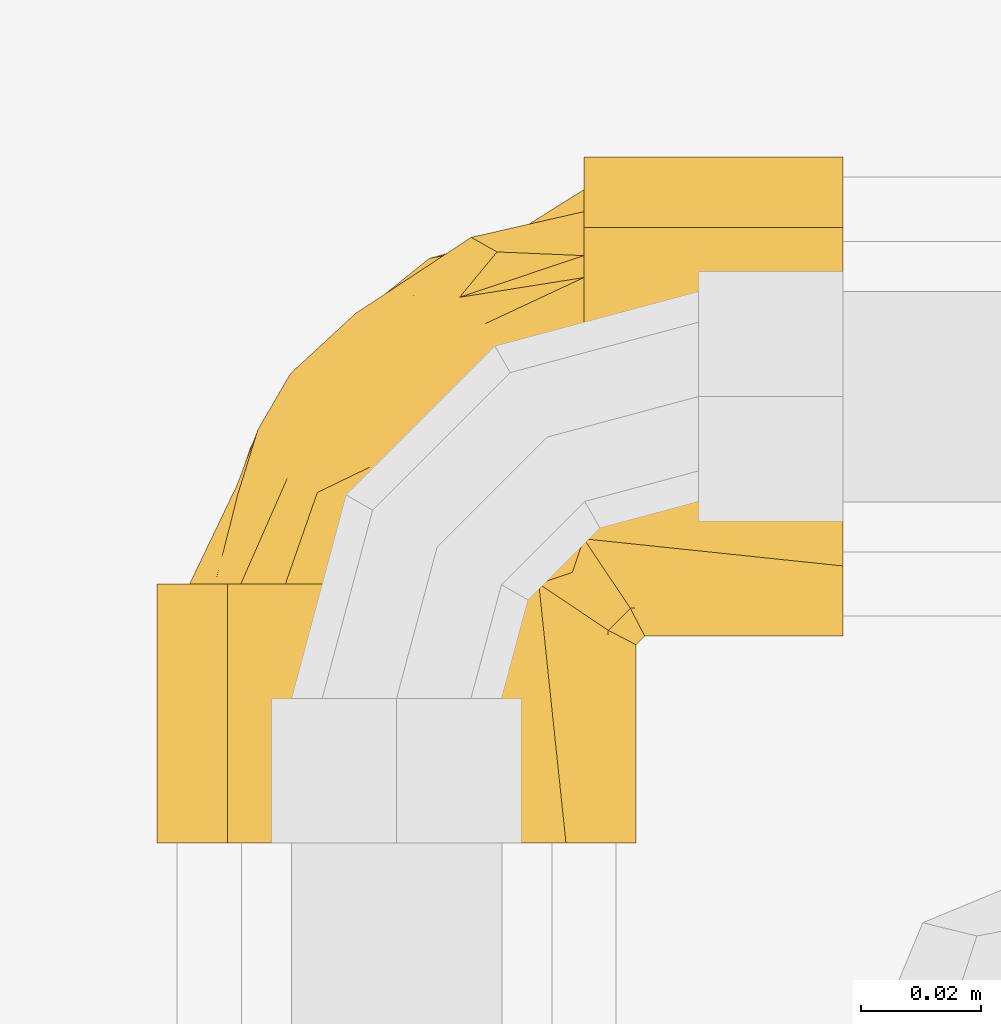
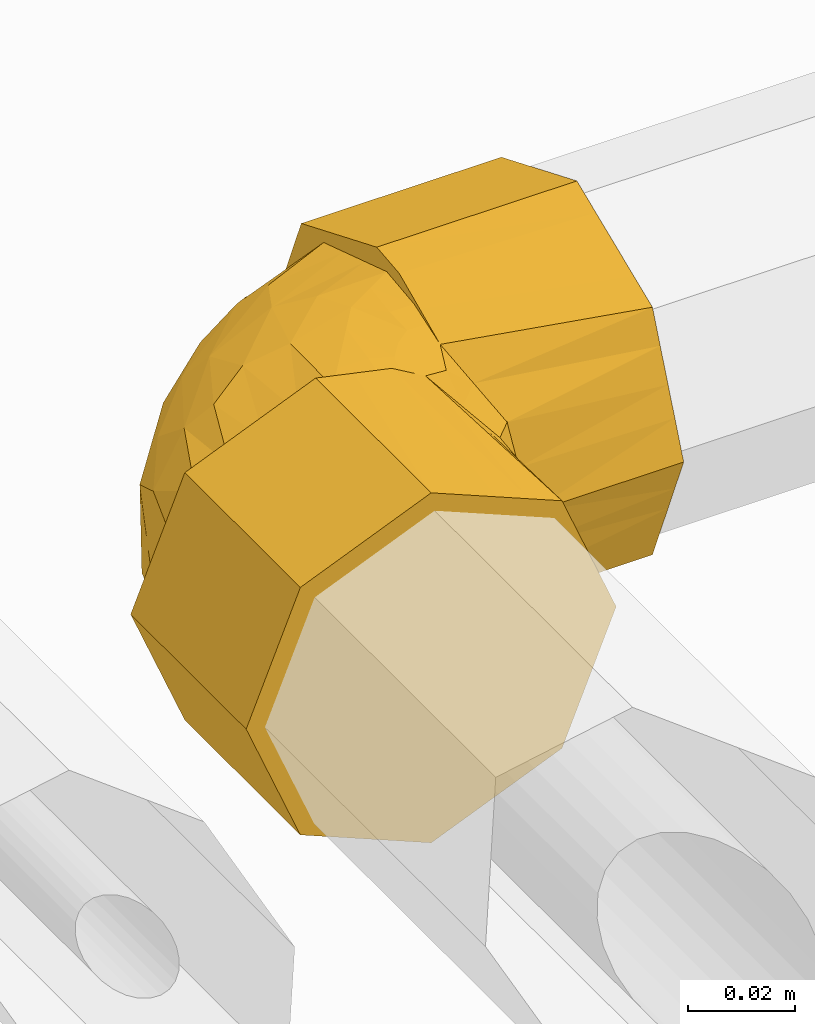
# One storey, part 149 of 652: 1 covering.
"""IFC2X3 building model written with IfcOpenShell, lengths in millimetres."""

from ifc_helpers import new_model, entity, si_unit, converted_unit, direction, frame, origin, place, context, subcontext, project, spatial, faceted_brep, material, type_object, element, save


model = new_model("IFC2X3")

# Units and contexts
model_context = context("Model", 3, precision=0.01, world=frame((0.0, 0.0, 308426.39999999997)), true_north=direction((6.123233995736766e-17, 1.0)))
plan_context = context("Plan", 3, precision=0.01, world=frame((0.0, 0.0, 308426.39999999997)), true_north=direction((6.123233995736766e-17, 1.0)))
body_context = subcontext(model_context, "Body", "Model", "MODEL_VIEW")
ifc_project = project(units=[si_unit("LENGTHUNIT", "METRE", prefix="MILLI"), si_unit("AREAUNIT", "SQUARE_METRE"), si_unit("VOLUMEUNIT", "CUBIC_METRE"), converted_unit("PLANEANGLEUNIT", "DEGREE", entity("IfcPlaneAngleMeasure", 0.017453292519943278), si_unit("PLANEANGLEUNIT", "RADIAN"), dimensions=[0, 0, 0, 0, 0, 0, 0])], contexts=[model_context, plan_context])

# Site, building, storey
site_placement = place(None, origin())
site = spatial("IfcSite", under=ifc_project, at=site_placement, Name="Default", CompositionType="ELEMENT")
building_placement = place(site_placement, origin())
building = spatial("IfcBuilding", under=site, at=building_placement, CompositionType="ELEMENT")
storey_placement = place(building_placement, frame((0.0, 0.0, 1730.6999999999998)))
storey = spatial("IfcBuildingStorey", under=building, at=storey_placement, Name="EG_Produktion_FFB", CompositionType="ELEMENT", Elevation=1730.6999999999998)

# Covering
ifc_material = material(Name="Dämmung - Armaflex-Schlauch")
covering_type = type_object("IfcCoveringType", Name="Rohrdämmung außen:Armaflex-Schlauch", PredefinedType="INSULATION")
covering_placement = place(storey_placement, frame((15142.840430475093, 61025.915749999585, 4241.353272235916)))
element("IfcCovering", 1, at=covering_placement, inside=storey, type_object=covering_type, material=ifc_material, Name="Rohrdämmung außen:Armaflex-Schlauch", ObjectType="Rohrdämmung außen:Armaflex-Schlauch", PredefinedType="INSULATION", context=body_context, shape_type="Brep", body=[
    faceted_brep([(72.43177223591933, 60.144076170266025, -76.62300673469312), (72.43177223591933, 64.13185283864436, -77.08951820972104), (72.43177223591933, 70.33992920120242, -77.81577223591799), (72.43177223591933, 77.97579246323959, -74.37467999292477), (72.43177223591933, 85.61165572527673, -70.93358774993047), (72.43177223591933, 92.77248166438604, -67.7065704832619), (72.43177223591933, 99.933307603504, -64.47955321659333), (72.43177223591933, 104.18429126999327, -52.91641272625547), (72.43177223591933, 108.43527493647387, -41.353272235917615), (72.43177223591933, 104.78880055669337, -34.14184701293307), (72.43177223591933, 101.14232617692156, -26.930421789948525), (72.43177223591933, 97.49585179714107, -19.71899656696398), (72.43177223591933, 93.84937741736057, -12.507571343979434), (72.43177223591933, 86.49570507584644, -10.125063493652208), (72.43177223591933, 78.4178171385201, -7.507917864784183), (72.43177223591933, 70.33992920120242, -4.8907722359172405), (72.4317722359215, 64.13185283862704, -5.617026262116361), (72.43177223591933, 60.144076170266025, -6.083537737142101), (72.4317722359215, 55.31227974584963, -7.721836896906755), (72.43177223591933, 50.48048332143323, -9.360136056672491), (72.43177223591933, 58.097888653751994, -5.923104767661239), (72.43177223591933, 65.71529398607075, -2.4860734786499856), (72.43177223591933, 74.08425000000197, -1.5952722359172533), (72.43177223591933, 82.08002046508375, -4.907228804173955), (72.43177223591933, 88.14082570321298, -7.417696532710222), (72.43177223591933, 95.16911355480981, -10.328908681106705), (72.43177223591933, 102.19740140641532, -13.24012082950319), (72.43177223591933, 105.10861355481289, -20.268408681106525), (72.43177223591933, 108.01982570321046, -27.296696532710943), (72.43177223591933, 110.93103785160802, -34.32498438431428), (72.43177223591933, 113.84224999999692, -41.353272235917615), (72.43177223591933, 110.53029340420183, -49.34904276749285), (72.43177223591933, 108.01982570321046, -55.40984793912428), (72.43177223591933, 105.10861355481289, -62.4381357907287), (72.43177223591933, 102.19740140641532, -69.46642364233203), (72.43177223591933, 95.16911355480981, -72.37763579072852), (72.43177223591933, 88.14082570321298, -75.288847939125), (72.43177223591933, 82.0800191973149, -77.79931619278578), (72.43177223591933, 74.08425000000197, -81.11127223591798), (72.43177223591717, 65.90823846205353, -79.35208118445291), (72.43177223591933, 57.73222692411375, -77.59289013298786), (72.43177223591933, 50.48048332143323, -73.34640841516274), (72.4317722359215, 55.31227974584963, -74.98470757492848), (115.43752223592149, 67.05596214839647, -4.506484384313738), (115.43752223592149, 60.02767429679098, -7.417696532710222), (115.43752223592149, 52.9993864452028, -10.328908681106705), (115.43752223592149, 45.971098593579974, -13.24012082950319), (115.43752223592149, 43.05988644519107, -20.268408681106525), (115.43752223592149, 40.1486742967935, -27.296696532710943), (115.43752223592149, 37.63820666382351, -33.35750154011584), (115.43752223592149, 34.32624999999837, -41.353272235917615), (115.43752223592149, 37.63820598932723, -49.349041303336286), (115.43752223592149, 40.14867429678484, -55.40984793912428), (115.43752223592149, 43.05988644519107, -62.4381357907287), (115.43752223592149, 45.971098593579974, -69.46642364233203), (115.43752223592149, 52.99938644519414, -72.37763579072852), (115.43752223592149, 60.02767429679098, -75.288847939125), (115.43752223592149, 67.05596214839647, -78.20006008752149), (115.43752223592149, 74.08425000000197, -81.11127223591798), (115.43752223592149, 81.11253785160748, -78.20006008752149), (115.43752223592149, 88.14082570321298, -75.288847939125), (115.43752223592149, 95.16911355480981, -72.37763579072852), (115.43752223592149, 102.19740140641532, -69.46642364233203), (115.43752223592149, 105.10861355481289, -62.4381357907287), (115.43752223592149, 108.01982570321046, -55.40984793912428), (115.43752223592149, 110.93103785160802, -48.38156008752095), (115.43752223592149, 113.84224999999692, -41.353272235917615), (115.43752223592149, 110.93103785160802, -34.32498438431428), (115.43752223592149, 108.01982570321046, -27.296696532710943), (115.43752223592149, 105.10861355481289, -20.26840868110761), (115.43752223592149, 102.19740140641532, -13.24012082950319), (115.43752223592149, 90.07579169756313, -8.219185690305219), (115.43752223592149, 82.0800208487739, -4.907228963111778), (115.43752223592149, 74.08425000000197, -1.5952722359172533), (76.29438305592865, 44.71268924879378, -16.057183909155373), (82.55017689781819, 34.32624999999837, -41.353272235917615), (81.35358538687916, 36.63557258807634, -32.05375199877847), (80.15699387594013, 38.94489517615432, -22.754231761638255), (80.75528963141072, 37.79023388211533, -27.403991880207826), (76.29438305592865, 44.71268924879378, -66.64936056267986), (81.35358538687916, 36.63557258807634, -50.65279247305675), (80.15699387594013, 38.94489517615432, -59.95231271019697), (81.99579646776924, 35.39615835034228, -45.66173672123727), (41.353272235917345, 43.00574999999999, -81.11127223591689), (33.35750183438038, 43.00574999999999, -77.79931569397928), (27.296696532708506, 43.00574999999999, -75.28884793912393), (20.26840868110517, 43.00574999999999, -72.37763579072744), (13.240120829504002, 43.00574999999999, -69.46642364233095), (10.328908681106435, 43.00574999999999, -62.43813579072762), (7.417696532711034, 43.00574999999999, -55.40984793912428), (4.907228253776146, 43.00574999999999, -49.34904137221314), (1.5952722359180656, 43.00574999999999, -41.353272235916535), (4.9072286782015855, 43.00574999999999, -33.357502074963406), (7.417696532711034, 43.00574999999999, -27.29669653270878), (10.32890868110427, 43.00574999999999, -20.26840868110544), (13.240120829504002, 43.00574999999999, -13.240120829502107), (20.26840868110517, 43.00574999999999, -10.328908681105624), (27.296696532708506, 43.00574999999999, -7.417696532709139), (34.32498438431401, 43.00574999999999, -4.506484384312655), (41.353272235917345, 43.00574999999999, -1.5952722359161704), (49.52928377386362, 43.00574999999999, -3.3544632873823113), (57.7052953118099, 43.00574999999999, -5.113654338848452), (64.95703891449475, 43.00574999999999, -9.360136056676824), (60.125242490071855, 43.00574999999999, -7.721836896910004), (55.293446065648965, 43.00574999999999, -6.0835377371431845), (51.30567010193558, 43.00574999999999, -5.617026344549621), (48.20163156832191, 43.00574999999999, -5.2538992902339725), (45.09759303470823, 43.00574999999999, -4.8907722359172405), (37.69714258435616, 43.00574999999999, -8.227318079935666), (30.29669213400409, 43.00574999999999, -11.56386392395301), (22.89624168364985, 43.00574999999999, -14.900409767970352), (15.495791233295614, 43.00574999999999, -18.236955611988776), (13.37240524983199, 43.00574999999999, -24.016034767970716), (11.249019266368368, 43.00574999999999, -29.79511392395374), (7.002247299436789, 43.00574999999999, -41.353272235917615), (10.651622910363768, 43.00574999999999, -48.566861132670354), (14.300998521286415, 43.00574999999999, -55.78045002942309), (17.95037413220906, 43.00574999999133, -62.99403892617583), (21.599749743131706, 43.00574999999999, -70.20762782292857), (27.474210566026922, 43.00574999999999, -72.1096639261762), (33.348671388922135, 43.00574999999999, -74.01170002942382), (45.09759303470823, 43.00574999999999, -77.81577223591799), (48.201631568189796, 43.00574999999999, -77.4526451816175), (51.30567010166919, 43.00574999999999, -77.08951812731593), (55.2934460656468, 43.00574999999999, -76.62300673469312), (60.12524249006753, 43.00574999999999, -74.98470757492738), (64.95703891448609, 43.00574999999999, -73.34640841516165), (57.33963358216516, 43.00574999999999, -76.7834397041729), (49.72222824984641, 43.00574999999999, -80.22047099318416), (13.240120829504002, 0.0, -13.240120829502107), (8.21918556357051, 0.0, -25.361730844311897), (4.9072288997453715, 0.0, -33.357501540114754), (1.5952722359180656, 0.0, -41.353272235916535), (4.506484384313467, 0.0, -48.381560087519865), (7.417696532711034, 0.0, -55.40984793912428), (10.32890868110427, 0.0, -62.43813579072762), (13.240120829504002, 0.0, -69.46642364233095), (20.26840868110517, 0.0, -72.37763579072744), (27.296696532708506, 0.0, -75.28884793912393), (34.32498438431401, 0.0, -78.20006008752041), (41.353272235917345, 0.0, -81.11127223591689), (48.381560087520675, 0.0, -78.20006008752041), (55.40984793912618, 0.0, -75.28884793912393), (62.43813579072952, 0.0, -72.37763579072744), (69.46642364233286, 0.0, -69.46642364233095), (72.37763579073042, 0.0, -62.43813579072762), (75.28884793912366, 0.0, -55.40984793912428), (77.79931550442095, 0.0, -49.349043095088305), (81.11127223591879, 0.0, -41.353272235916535), (77.79931623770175, 0.0, -33.35750314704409), (75.28884793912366, 0.0, -27.29669653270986), (72.37763579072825, 0.0, -20.26840868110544), (69.46642364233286, 0.0, -13.240120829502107), (62.43813579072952, 0.0, -10.328908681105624), (55.40984793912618, 0.0, -7.417696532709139), (49.34904308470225, 0.0, -4.907228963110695), (41.353272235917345, 0.0, -1.5952722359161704), (34.32498438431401, 0.0, -4.506484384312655), (27.296696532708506, 0.0, -7.417696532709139), (20.26840868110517, 0.0, -10.328908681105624), (81.11127223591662, 32.88734533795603, -41.353272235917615), (78.80194964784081, 34.08393684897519, -32.05375199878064), (76.492627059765, 35.280528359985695, -22.754231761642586), (78.97145557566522, 33.996106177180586, -32.73634342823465), (70.72483298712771, 39.14313917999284, -16.057183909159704), (70.72483298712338, 39.14313917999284, -66.64936056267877), (78.80194964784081, 34.08393684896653, -50.65279247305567), (76.49262705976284, 35.28052835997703, -59.9523127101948), (78.97145557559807, 33.99610617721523, -49.970201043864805), (80.04136390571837, 33.44172575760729, -45.66173663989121), (28.19110575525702, 58.166290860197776, -12.124299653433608), (56.173355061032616, 86.24367512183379, -11.869467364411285), (50.64377400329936, 75.43570574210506, -8.378555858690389), (60.9929039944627, 63.77170858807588, -4.8907722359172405), (57.90061631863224, 71.00962303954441, -5.704393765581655), (45.89785871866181, 60.33082901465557, -5.817790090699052), (36.82001052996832, 74.69227230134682, -14.285355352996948), (51.80207039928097, 90.57284197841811, -17.286951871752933), (23.738422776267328, 77.92193606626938, -41.353272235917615), (18.343086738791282, 68.6359141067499, -33.28725759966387), (34.51769201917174, 87.88495600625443, -32.933813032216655), (60.25843487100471, 100.80694021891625, -41.353272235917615), (53.73292005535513, 100.52515800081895, -31.928717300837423), (33.524488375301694, 79.21479866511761, -20.52698465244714), (46.92212877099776, 45.389360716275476, -4.8907722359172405), (48.74666450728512, 47.77297143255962, -4.8907722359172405), (52.39573597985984, 52.54019286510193, -4.8907722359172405), (56.69431998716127, 58.15595072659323, -4.8907722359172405), (23.18583399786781, 60.494157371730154, -17.193351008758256), (44.19289890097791, 90.87816522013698, -23.505882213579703), (58.02641308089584, 98.10654117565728, -22.48997159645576), (22.770111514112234, 69.6013927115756, -24.518432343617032), (30.82495311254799, 81.49463540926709, -26.856666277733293), (15.370335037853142, 60.46384303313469, -41.353272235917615), (14.815761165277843, 59.30685202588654, -41.353272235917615), (48.08509750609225, 93.1786055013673, -41.353272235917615), (42.120894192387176, 89.44118018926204, -41.353272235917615), (35.91176014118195, 85.550270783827, -41.353272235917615), (14.93671691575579, 57.68461622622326, -26.962093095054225), (36.83398515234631, 62.34563514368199, -8.9072050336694), (57.276333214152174, 98.93822756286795, -41.353272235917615), (67.17975226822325, 67.32420901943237, -4.8907722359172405), (66.82609985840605, 59.547719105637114, -5.540058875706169), (67.53281751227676, 54.28952280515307, -6.7519160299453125), (81.8038063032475, 33.63371593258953, -41.353272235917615), (63.97836554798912, 51.45915617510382, -6.67082440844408), (70.52863875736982, 44.908883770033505, -11.210836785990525), (61.14799970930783, 47.90470403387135, -6.751916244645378), (55.91882115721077, 48.5166417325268, -5.55502126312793), (66.82609985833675, 59.54771910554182, -77.16648559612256), (67.1797522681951, 67.32420901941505, -77.81577223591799), (70.52863885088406, 44.90888341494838, -71.49570746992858), (63.97836630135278, 51.45915542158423, -76.03571971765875), (67.53281753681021, 54.289522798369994, -75.95462843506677), (56.69431998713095, 58.15595072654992, -77.81577223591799), (61.14799971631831, 47.904704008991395, -75.95462822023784), (55.91882115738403, 48.51664173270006, -77.15152320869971), (48.746664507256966, 47.77297143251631, -77.81577223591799), (60.9929039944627, 63.77170858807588, -77.81577223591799), (46.922128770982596, 45.389360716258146, -77.81577223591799), (52.39573597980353, 52.54019286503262, -77.81577223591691), (55.82565961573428, 77.88884430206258, -74.80598737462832), (57.28959429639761, 85.68390575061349, -71.56225245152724), (39.02450620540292, 57.20212685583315, -75.79919171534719), (32.063467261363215, 85.21783817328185, -50.884712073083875), (35.5666121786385, 76.99963686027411, -65.94296495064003), (40.99370372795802, 68.28685011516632, -73.58946657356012), (28.534989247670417, 64.58632217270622, -68.10768824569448), (49.33889122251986, 64.72447259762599, -76.81449307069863), (59.44894022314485, 73.0393897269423, -76.8198510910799), (47.6272601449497, 85.65544995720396, -67.36791849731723), (28.79126858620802, 75.83338581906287, -60.18508487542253), (17.084732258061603, 65.65295551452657, -51.08904624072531), (18.64017595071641, 60.45142062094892, -60.011099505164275), (32.10245728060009, 57.30670812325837, -73.08709853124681), (50.634728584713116, 95.65270419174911, -58.137926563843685), (40.67615020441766, 86.3305076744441, -61.63866824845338), (59.442278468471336, 94.01862068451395, -65.97235995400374), (46.78958221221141, 97.0320102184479, -49.62375736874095)], [[[0, 1, 2, 3, 4, 5, 6, 7, 8, 9, 10, 11, 12, 13, 14, 15, 16, 17, 18, 19, 20, 21, 22, 23, 24, 25, 26, 27, 28, 29, 30, 31, 32, 33, 34, 35, 36, 37, 38, 39, 40, 41, 42]], [[43, 44, 45, 46, 47, 48, 49, 50, 51, 52, 53, 54, 55, 56, 57, 58, 59, 60, 61, 62, 63, 64, 65, 66, 67, 68, 69, 70, 71, 72, 73]], [[47, 46, 74]], [[75, 50, 49]], [[76, 75, 49]], [[48, 77, 78, 76]], [[47, 74, 77]], [[44, 20, 45]], [[43, 21, 44]], [[46, 19, 74]], [[77, 48, 47]], [[44, 21, 20]], [[43, 22, 21]], [[48, 76, 49]], [[43, 73, 22]], [[45, 20, 19]], [[19, 46, 45]], [[23, 22, 73, 72, 71, 70, 26, 25, 24]], [[26, 70, 69, 68, 67, 66, 30, 29, 28, 27]], [[38, 37, 36, 35, 34, 62, 61, 60, 59, 58]], [[30, 66, 65, 64, 63, 62, 34, 33, 32, 31]], [[56, 40, 39]], [[53, 79, 54]], [[39, 57, 56]], [[41, 55, 54]], [[40, 55, 41]], [[80, 52, 51]], [[52, 80, 81]], [[58, 57, 38]], [[51, 75, 82, 80]], [[38, 57, 39]], [[79, 53, 81]], [[55, 40, 56]], [[51, 50, 75]], [[53, 52, 81]], [[79, 41, 54]], [[83, 84, 85, 86, 87, 88, 89, 90, 91, 92, 93, 94, 95, 96, 97, 98, 99, 100, 101, 102, 103, 104, 105, 106, 107, 108, 109, 110, 111, 112, 113, 114, 115, 116, 117, 118, 119, 120, 121, 122, 123, 124, 125, 126, 127, 128]], [[129, 130, 131, 132, 133, 134, 135, 136, 137, 138, 139, 140, 141, 142, 143, 144, 145, 146, 147, 148, 149, 150, 151, 152, 153, 154, 155, 156, 157, 158, 159]], [[132, 131, 130, 129, 95, 94, 93, 92, 91]], [[95, 129, 159, 158, 157, 156, 99, 98, 97, 96]], [[156, 155, 154, 100]], [[101, 153, 102]], [[99, 156, 100]], [[101, 100, 154]], [[149, 148, 160]], [[102, 153, 152]], [[150, 161, 162]], [[161, 150, 149]], [[149, 160, 163, 161]], [[151, 164, 152]], [[164, 151, 162]], [[153, 101, 154]], [[151, 150, 162]], [[164, 102, 152]], [[145, 144, 165]], [[146, 166, 147]], [[166, 146, 167]], [[160, 148, 147]], [[145, 165, 167]], [[142, 127, 143]], [[141, 128, 142]], [[144, 126, 165]], [[167, 146, 145]], [[142, 128, 127]], [[141, 83, 128]], [[147, 166, 168, 169, 160]], [[141, 140, 83]], [[143, 127, 126]], [[126, 144, 143]], [[91, 90, 89, 88, 87, 136, 135, 134, 133, 132]], [[138, 137, 136, 87, 86, 85, 84, 83, 140, 139]], [[109, 170, 110]], [[13, 171, 172]], [[14, 13, 172]], [[173, 174, 175]], [[176, 171, 177]], [[15, 14, 174]], [[178, 179, 180]], [[9, 181, 182]], [[172, 175, 174]], [[13, 12, 171]], [[12, 11, 177]], [[176, 177, 183]], [[175, 107, 184, 185, 186, 187, 173]], [[188, 170, 176]], [[176, 172, 171]], [[189, 190, 182]], [[11, 10, 190]], [[177, 11, 190]], [[170, 188, 110]], [[191, 183, 192]], [[179, 178, 193, 194]], [[182, 190, 10]], [[189, 182, 180]], [[177, 190, 189]], [[182, 10, 9]], [[182, 195, 180]], [[177, 189, 183]], [[177, 171, 12]], [[180, 195, 196, 197, 178]], [[113, 179, 194]], [[112, 111, 198, 113]], [[198, 111, 188]], [[194, 114, 113]], [[179, 191, 192]], [[199, 175, 172]], [[199, 108, 175]], [[172, 176, 199]], [[188, 111, 110]], [[199, 170, 109]], [[183, 188, 176]], [[108, 199, 109]], [[188, 191, 198]], [[108, 107, 175]], [[176, 170, 199]], [[192, 189, 180]], [[188, 183, 191]], [[189, 192, 183]], [[179, 192, 180]], [[181, 9, 8]], [[182, 181, 200, 195]], [[191, 179, 198]], [[179, 113, 198]], [[174, 173, 201, 15]], [[172, 174, 14]], [[173, 202, 201]], [[173, 187, 203]], [[18, 203, 19]], [[201, 17, 16, 15]], [[204, 76, 163]], [[74, 164, 162, 77]], [[163, 76, 78, 77, 162, 161]], [[205, 102, 206]], [[206, 164, 74]], [[106, 105, 104, 185, 184, 107]], [[205, 207, 102]], [[186, 185, 208, 187]], [[204, 75, 76]], [[163, 160, 204]], [[205, 206, 19]], [[164, 206, 102]], [[203, 205, 19]], [[19, 206, 74]], [[201, 202, 17]], [[17, 202, 18]], [[203, 202, 173]], [[18, 202, 203]], [[102, 207, 103]], [[103, 208, 104]], [[207, 205, 187]], [[208, 103, 207]], [[208, 185, 104]], [[187, 208, 207]], [[203, 187, 205]], [[204, 160, 169]], [[209, 210, 0]], [[169, 168, 166, 167, 81, 80, 82]], [[41, 211, 212]], [[1, 0, 210, 2]], [[213, 212, 214]], [[204, 169, 82]], [[79, 165, 211]], [[126, 125, 215]], [[212, 211, 126]], [[204, 82, 75]], [[167, 165, 79, 81]], [[216, 124, 217]], [[218, 209, 213]], [[122, 121, 219, 217, 124, 123]], [[41, 79, 211]], [[211, 165, 126]], [[209, 0, 42]], [[125, 124, 216]], [[126, 215, 212]], [[125, 216, 215]], [[220, 214, 216, 217]], [[213, 42, 41]], [[212, 213, 41]], [[210, 209, 218]], [[214, 212, 215]], [[209, 42, 213]], [[215, 216, 214]], [[218, 213, 214]], [[4, 221, 222]], [[223, 121, 120]], [[224, 178, 197, 196]], [[225, 226, 227]], [[228, 226, 221]], [[229, 218, 228]], [[222, 226, 230]], [[231, 232, 224]], [[3, 229, 221]], [[233, 232, 231]], [[234, 223, 120]], [[229, 2, 210, 218]], [[224, 235, 236]], [[4, 3, 221]], [[228, 218, 214, 220, 217, 219, 121]], [[237, 222, 230]], [[6, 235, 7]], [[235, 6, 237]], [[238, 200, 7]], [[228, 223, 226]], [[224, 238, 235]], [[234, 226, 223]], [[227, 117, 233]], [[193, 232, 115]], [[224, 232, 178]], [[115, 114, 194, 193]], [[235, 237, 236]], [[238, 224, 196]], [[226, 222, 221]], [[222, 237, 5]], [[5, 237, 6]], [[5, 4, 222]], [[237, 230, 236]], [[7, 200, 181, 8]], [[7, 235, 238]], [[238, 196, 195, 200]], [[227, 118, 117]], [[193, 178, 232]], [[231, 236, 225]], [[233, 117, 116]], [[232, 233, 116]], [[227, 233, 231]], [[229, 3, 2]], [[228, 221, 229]], [[121, 223, 228]], [[119, 118, 234, 120]], [[234, 118, 227]], [[227, 226, 234]], [[232, 116, 115]], [[225, 236, 230]], [[224, 236, 231]], [[226, 225, 230]], [[231, 225, 227]]]),
])

save(model, "model.ifc")
